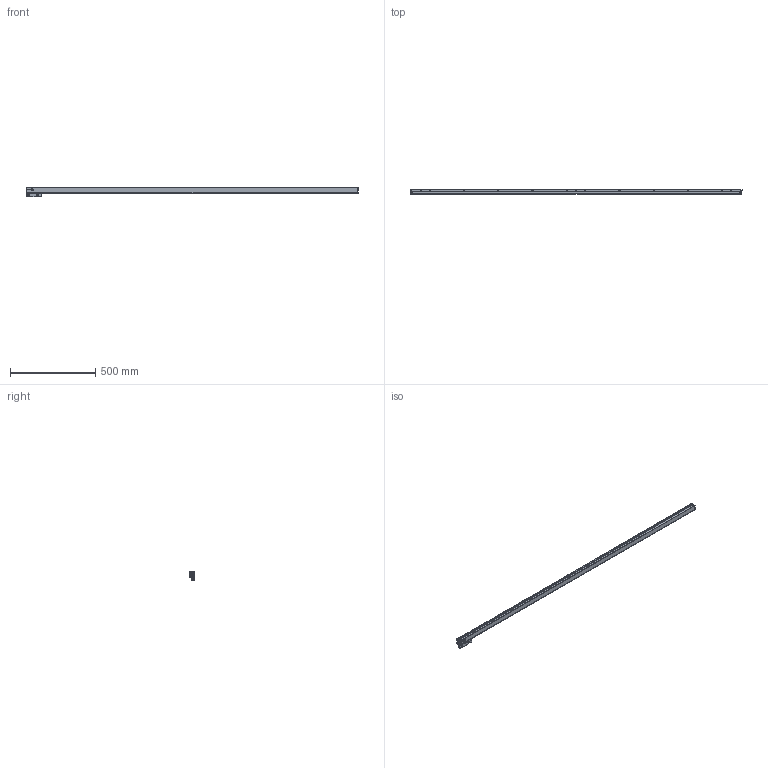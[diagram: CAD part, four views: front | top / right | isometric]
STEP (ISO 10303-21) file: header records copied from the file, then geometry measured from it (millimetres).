
FILE_DESCRIPTION(('Creo Elements/Direct Modeling STEP Export'),'2;1');
FILE_NAME('Regla SV2-1840-T-V01A.stp','2022-11-30T10:04:32',(''),(''),'Creo Elements/Direct Modeling STEP processor for AP214 (Solid Model)','Creo Elements/Direct Modeling 20.4A 18-Oct-2021 (C) Parametric Technology GmbH','');
FILE_SCHEMA(('AUTOMOTIVE_DESIGN { 1 0 10303 214 1 1 1 1 }'));
Products named in the file (4): SOPORTE_SV3-1840; REGLA_SV2-1840-T; CABEZA_ROSCADA_REGLA_SV2-T; REGLA_SV2-1840-T-V01A
Assembly tree (3 placements, depth 2):
  REGLA_SV2-1840-T-V01A
    CABEZA_ROSCADA_REGLA_SV2-T
    REGLA_SV2-1840-T
    SOPORTE_SV3-1840
Bounding box: 1945 x 28 x 56.2 mm (x, y, z)
Volume: 1499972.7 mm3; surface area: 544485.1 mm2
Topology: 3 solids, 24 shells, 3359 faces, 9739 edges, 6414 vertices
Faces by surface type: plane 1754, cylinder 1146, cone 288, bspline 114, torus 50, sphere 4, extrusion 3
Entity records: 126700 total; most frequent: CARTESIAN_POINT 29948, ORIENTED_EDGE 19434, DIRECTION 16409, EDGE_CURVE 9717, VERTEX_POINT 6414, AXIS2_PLACEMENT_3D 5502, VECTOR 5405, LINE 5402
